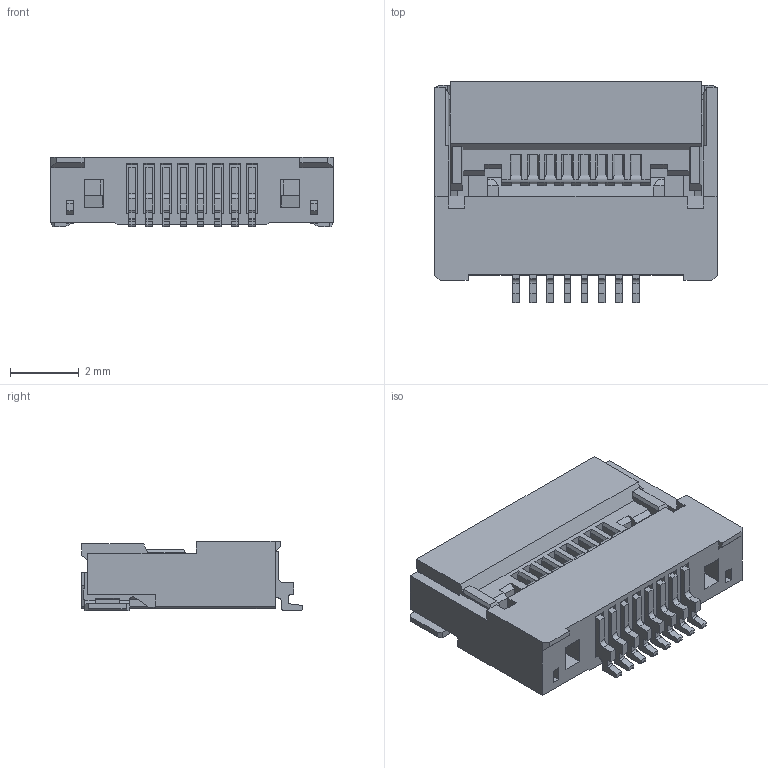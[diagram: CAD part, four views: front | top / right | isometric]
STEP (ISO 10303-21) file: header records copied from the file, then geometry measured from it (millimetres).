
FILE_DESCRIPTION(('CATIA V5 STEP Exchange'),'2;1');
FILE_NAME('D:\(編集厳禁)\3D 備用 (編集厳禁)\3D 備用6xxx\6288-李-2 拘束済\3D Web F図寸法使用●●●\待重作\000 Type\新しいフォルダ\00_6288_008_000_846_+.stp','2013-06-12T00:47:01+00:00',('none'),('none'),'CATIA Version 5 Release 19 SP 8 (IN-10)','CATIA V5 STEP AP214','none');
FILE_SCHEMA(('AUTOMOTIVE_DESIGN { 1 0 10303 214 1 1 1 1 }'));
Length unit declared in the file: millimetre
Products named in the file (1): Part2
Bounding box: 8.24 x 6.45 x 2.02 mm (x, y, z)
Volume: 64.6 mm3; surface area: 281.2 mm2
Topology: 2 solids, 2 shells, 521 faces, 1637 edges, 1094 vertices
Faces by surface type: plane 429, cylinder 92
Entity records: 16674 total; most frequent: ORIENTED_EDGE 3274, CARTESIAN_POINT 3233, DIRECTION 2085, EDGE_CURVE 1637, VECTOR 1361, LINE 1361, VERTEX_POINT 1094, EDGE_LOOP 535
